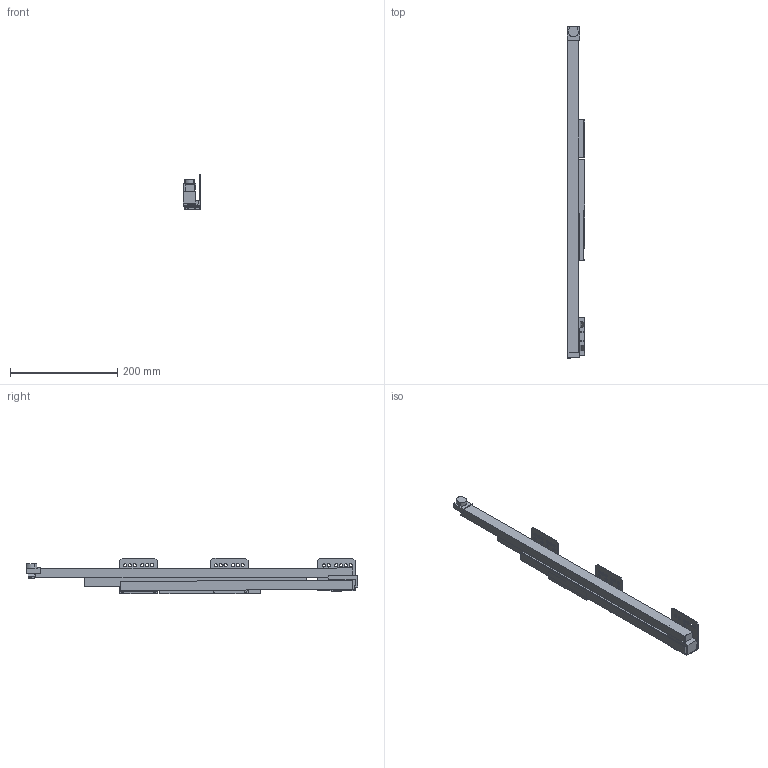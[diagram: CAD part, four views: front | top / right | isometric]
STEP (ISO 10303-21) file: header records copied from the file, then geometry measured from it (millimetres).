
FILE_DESCRIPTION (( 'STEP AP214' ), '1' );
FILE_NAME ('_IMOS Dynamic-XP VA 40kg NL600 RE Tipmatic.step', '2010-07-08T13:26:47', ( 'grass' ), ( '' ), 'SwSTEP 2.0', 'SolidWorks 2010', '' );
FILE_SCHEMA (( 'AUTOMOTIVE_DESIGN' ));
Length unit declared in the file: millimetre
Products named in the file (1): _IMOS Dynamic-XP VA 40kg NL600 RE Tipmatic
Bounding box: 33.14 x 618.02 x 66.67 mm (x, y, z)
Volume: 493053.3 mm3; surface area: 182947 mm2
Topology: 9 solids, 9 shells, 238 faces, 652 edges, 434 vertices
Faces by surface type: plane 167, cylinder 71
Entity records: 7758 total; most frequent: CARTESIAN_POINT 1325, ORIENTED_EDGE 1304, DIRECTION 1274, EDGE_CURVE 652, LINE 508, VECTOR 508, VERTEX_POINT 434, AXIS2_PLACEMENT_3D 383
